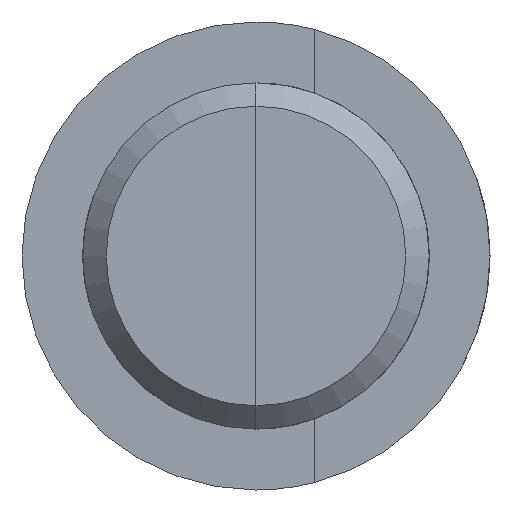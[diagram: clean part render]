
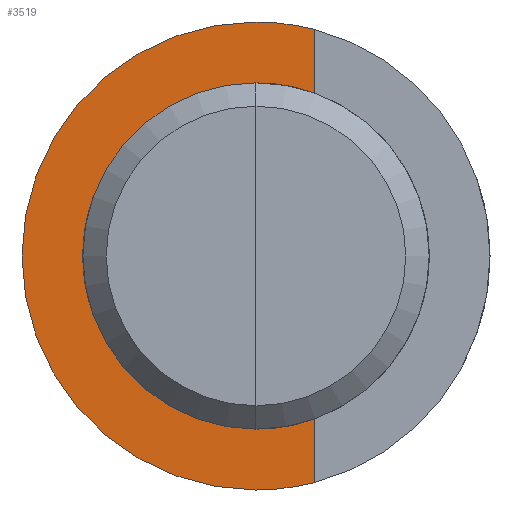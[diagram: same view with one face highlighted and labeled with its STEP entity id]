
A CAD part, left-side view. The second image highlights one B-rep face of the part: STEP entity #3519.
In plain terms, the highlighted planar face has unit normal (-1, 0, 0).
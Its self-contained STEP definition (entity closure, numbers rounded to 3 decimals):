
#478 = PLANE ( 'NONE',  #9892 ) ;
#515 = VERTEX_POINT ( 'NONE', #6508 ) ;
#748 = CARTESIAN_POINT ( 'NONE',  ( -25., 0., 20. ) ) ;
#854 = VECTOR ( 'NONE', #10954, 1000. ) ;
#962 = VERTEX_POINT ( 'NONE', #2034 ) ;
#972 = EDGE_CURVE ( 'NONE', #12323, #7841, #8726, .T. ) ;
#1011 = CIRCLE ( 'NONE', #7638, 20. ) ;
#1054 = ORIENTED_EDGE ( 'NONE', *, *, #4492, .F. ) ;
#1341 = EDGE_CURVE ( 'NONE', #10923, #962, #2059, .T. ) ;
#1406 = DIRECTION ( 'NONE',  ( 0., 0., -1. ) ) ;
#1646 = EDGE_CURVE ( 'NONE', #5076, #3974, #4692, .T. ) ;
#1822 = CIRCLE ( 'NONE', #10136, 14.8 ) ;
#1864 = CARTESIAN_POINT ( 'NONE',  ( -25., 0., 14.8 ) ) ;
#1958 = DIRECTION ( 'NONE',  ( 1., 0., 0. ) ) ;
#1970 = ORIENTED_EDGE ( 'NONE', *, *, #6721, .T. ) ;
#2034 = CARTESIAN_POINT ( 'NONE',  ( -25., 0., -20. ) ) ;
#2045 = FACE_OUTER_BOUND ( 'NONE', #11951, .T. ) ;
#2059 = CIRCLE ( 'NONE', #12900, 20. ) ;
#2092 = ORIENTED_EDGE ( 'NONE', *, *, #4831, .F. ) ;
#2316 = DIRECTION ( 'NONE',  ( 1., 0., 0. ) ) ;
#2416 = EDGE_CURVE ( 'NONE', #12447, #515, #12132, .T. ) ;
#2439 = DIRECTION ( 'NONE',  ( -1., 0., 0. ) ) ;
#2657 = CARTESIAN_POINT ( 'NONE',  ( -25., -5., 13.93 ) ) ;
#3204 = DIRECTION ( 'NONE',  ( 1., 0., 0. ) ) ;
#3214 = ORIENTED_EDGE ( 'NONE', *, *, #1646, .F. ) ;
#3363 = CARTESIAN_POINT ( 'NONE',  ( -25., 0., 0. ) ) ;
#3423 = CARTESIAN_POINT ( 'NONE',  ( -25., -5., 19.365 ) ) ;
#3519 = ADVANCED_FACE ( 'NONE', ( #2045 ), #478, .T. ) ;
#3613 = DIRECTION ( 'NONE',  ( 1., 0., 0. ) ) ;
#3974 = VERTEX_POINT ( 'NONE', #3423 ) ;
#4332 = CARTESIAN_POINT ( 'NONE',  ( -25., -5., -19.365 ) ) ;
#4389 = DIRECTION ( 'NONE',  ( 0., 0., -1. ) ) ;
#4492 = EDGE_CURVE ( 'NONE', #3974, #7841, #7337, .T. ) ;
#4583 = DIRECTION ( 'NONE',  ( 1., 0., 0. ) ) ;
#4692 = CIRCLE ( 'NONE', #7281, 20. ) ;
#4831 = EDGE_CURVE ( 'NONE', #12447, #10923, #5945, .T. ) ;
#5076 = VERTEX_POINT ( 'NONE', #748 ) ;
#5771 = ORIENTED_EDGE ( 'NONE', *, *, #1341, .F. ) ;
#5861 = CARTESIAN_POINT ( 'NONE',  ( -25., -5., 0. ) ) ;
#5876 = CARTESIAN_POINT ( 'NONE',  ( -25., 0., 0. ) ) ;
#5945 = LINE ( 'NONE', #5861, #854 ) ;
#6003 = DIRECTION ( 'NONE',  ( 0., 0., -1. ) ) ;
#6081 = DIRECTION ( 'NONE',  ( 0., 0., -1. ) ) ;
#6299 = DIRECTION ( 'NONE',  ( 1., 0., 0. ) ) ;
#6508 = CARTESIAN_POINT ( 'NONE',  ( -25., 0., -14.8 ) ) ;
#6721 = EDGE_CURVE ( 'NONE', #515, #12323, #1822, .T. ) ;
#7199 = VECTOR ( 'NONE', #9403, 1000. ) ;
#7249 = CARTESIAN_POINT ( 'NONE',  ( -25., -5., -13.93 ) ) ;
#7281 = AXIS2_PLACEMENT_3D ( 'NONE', #8470, #4583, #7644 ) ;
#7337 = LINE ( 'NONE', #11379, #7199 ) ;
#7542 = CARTESIAN_POINT ( 'NONE',  ( -25., 0., 0. ) ) ;
#7638 = AXIS2_PLACEMENT_3D ( 'NONE', #12087, #3204, #6081 ) ;
#7644 = DIRECTION ( 'NONE',  ( 0., 0., -1. ) ) ;
#7841 = VERTEX_POINT ( 'NONE', #2657 ) ;
#8470 = CARTESIAN_POINT ( 'NONE',  ( -25., 0., 0. ) ) ;
#8726 = CIRCLE ( 'NONE', #12645, 14.8 ) ;
#9066 = EDGE_CURVE ( 'NONE', #962, #5076, #1011, .T. ) ;
#9403 = DIRECTION ( 'NONE',  ( 0., 0., -1. ) ) ;
#9892 = AXIS2_PLACEMENT_3D ( 'NONE', #12384, #2439, #4389 ) ;
#10136 = AXIS2_PLACEMENT_3D ( 'NONE', #7542, #3613, #12423 ) ;
#10178 = DIRECTION ( 'NONE',  ( 0., 0., -1. ) ) ;
#10821 = ORIENTED_EDGE ( 'NONE', *, *, #972, .T. ) ;
#10923 = VERTEX_POINT ( 'NONE', #4332 ) ;
#10941 = ORIENTED_EDGE ( 'NONE', *, *, #2416, .T. ) ;
#10954 = DIRECTION ( 'NONE',  ( 0., 0., -1. ) ) ;
#11379 = CARTESIAN_POINT ( 'NONE',  ( -25., -5., 0. ) ) ;
#11951 = EDGE_LOOP ( 'NONE', ( #1054, #3214, #12871, #5771, #2092, #10941, #1970, #10821 ) ) ;
#12087 = CARTESIAN_POINT ( 'NONE',  ( -25., 0., 0. ) ) ;
#12132 = CIRCLE ( 'NONE', #12818, 14.8 ) ;
#12242 = CARTESIAN_POINT ( 'NONE',  ( -25., 0., 0. ) ) ;
#12323 = VERTEX_POINT ( 'NONE', #1864 ) ;
#12384 = CARTESIAN_POINT ( 'NONE',  ( -25., 0., 0. ) ) ;
#12423 = DIRECTION ( 'NONE',  ( 0., 0., -1. ) ) ;
#12447 = VERTEX_POINT ( 'NONE', #7249 ) ;
#12645 = AXIS2_PLACEMENT_3D ( 'NONE', #5876, #1958, #6003 ) ;
#12818 = AXIS2_PLACEMENT_3D ( 'NONE', #12242, #2316, #10178 ) ;
#12871 = ORIENTED_EDGE ( 'NONE', *, *, #9066, .F. ) ;
#12900 = AXIS2_PLACEMENT_3D ( 'NONE', #3363, #6299, #1406 ) ;
